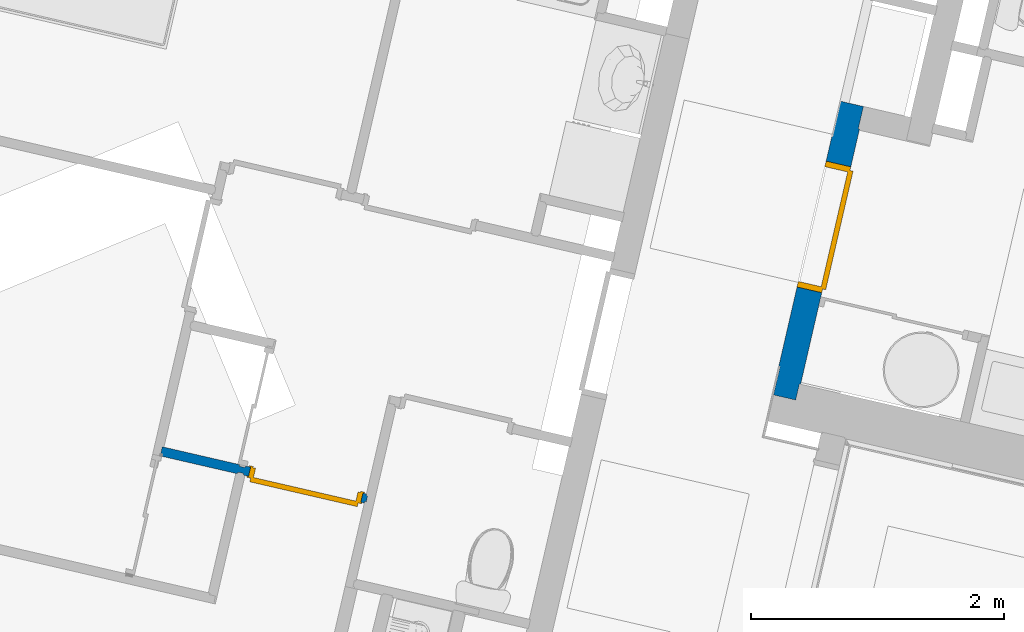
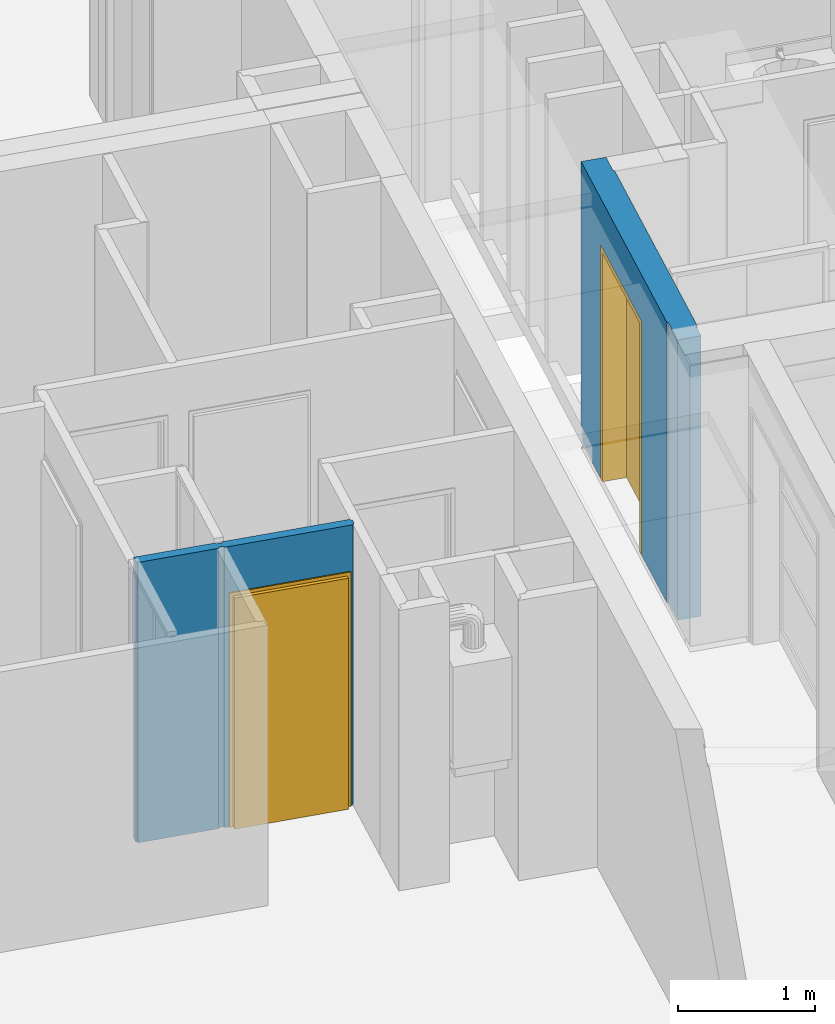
# One storey, part 20 of 119: 2 doors, 2 walls, 2 openings.
"""IFC2X3 building model written with IfcOpenShell, lengths in metres."""

import ifcopenshell
import ifcopenshell.guid

model = None  # the IFC model being written
_history = None  # IfcOwnerHistory: only IFC2X3 demands one
_inside = {}  # id of a spatial element -> (the spatial element, [elements in it])
_under = {}  # id of a project, library or spatial element -> (it, [spatial elements below it])
_declared = {}  # id of a project -> (the project, [libraries it declares])
_typed = {}  # id of a type object -> (the type object, [elements of that type])
_made_of = {}  # id of a material, layer set ... -> (it, [elements and type objects made of it])


def new_model(schema):
    """Start an empty IFC model of exactly this schema.

    Asked for "IFC4X3", IfcOpenShell would pick the latest addendum, in which some entities
    have other attributes; the version numbers below select the first issue.
    IFC2X3 requires an IfcOwnerHistory on every rooted entity: one is made here for all.
    """
    global model, _history
    if schema == "IFC4X3":
        model = ifcopenshell.file(schema_version=(4, 3, 0, 0))
    else:
        model = ifcopenshell.file(schema=schema)
    _inside.clear()
    _under.clear()
    _declared.clear()
    _typed.clear()
    _made_of.clear()
    _history = None
    if model.schema == "IFC2X3":
        org = make("IfcOrganization", Name="unknown")
        user = make(
            "IfcPersonAndOrganization",
            ThePerson=make("IfcPerson", FamilyName="unknown"),
            TheOrganization=org,
        )
        app = make(
            "IfcApplication",
            ApplicationDeveloper=org,
            Version="unknown",
            ApplicationFullName="unknown",
            ApplicationIdentifier="unknown",
        )
        _history = make(
            "IfcOwnerHistory",
            OwningUser=user,
            OwningApplication=app,
            ChangeAction="ADDED",
            CreationDate=0,
        )
    return model


def make(cls, **values):
    """One entity of the class cls with the attributes given. An attribute that is None is left unset."""
    return model.create_entity(
        cls, **{name: value for name, value in values.items() if value is not None}
    )


def entity(cls, *values):
    """Any entity or typed value of the class cls, its attributes in the order of the schema. None: left unset."""
    e = model.create_entity(cls)
    for i, value in enumerate(values):
        if value is not None:
            e[i] = value
    return e


def rooted(cls, **values):
    """An entity with a GlobalId (a new one), such as an element, a storey or a relation."""
    return make(cls, GlobalId=ifcopenshell.guid.new(), OwnerHistory=_history, **values)


def si_unit(unit_type, name, prefix=None):
    """IfcSIUnit, for example si_unit("LENGTHUNIT", "METRE", prefix="MILLI")."""
    return make("IfcSIUnit", UnitType=unit_type, Prefix=prefix, Name=name)


def converted_unit(unit_type, name, factor, base, dimensions=None, offset=None):
    """IfcConversionBasedUnit, such as the inch: factor (a typed value) times the base unit."""
    return make(
        "IfcConversionBasedUnit"
        if offset is None
        else "IfcConversionBasedUnitWithOffset",
        ConversionOffset=offset,
        Dimensions=None
        if dimensions is None
        else entity("IfcDimensionalExponents", *dimensions),
        UnitType=unit_type,
        Name=name,
        ConversionFactor=make(
            "IfcMeasureWithUnit", ValueComponent=factor, UnitComponent=base
        ),
    )


def derived_unit(unit_type, elements):
    """IfcDerivedUnit: a product of units, each with its exponent."""
    return make(
        "IfcDerivedUnit",
        Elements=[
            make("IfcDerivedUnitElement", Unit=unit, Exponent=power)
            for unit, power in elements
        ],
        UnitType=unit_type,
    )


def money_unit(currency):
    """IfcMonetaryUnit."""
    return make("IfcMonetaryUnit", Currency=currency)


def assignment(units):
    """IfcUnitAssignment: the units of a project."""
    return None if units is None else make("IfcUnitAssignment", Units=units)


def point(xyz):
    """IfcCartesianPoint."""
    return None if xyz is None else make("IfcCartesianPoint", Coordinates=xyz)


def direction(xyz):
    """IfcDirection."""
    return None if xyz is None else make("IfcDirection", DirectionRatios=xyz)


def frame(location, z_axis=None, x_axis=None):
    """IfcAxis2Placement3D, a coordinate frame: its origin and axes. An axis left out is left unset."""
    return make(
        "IfcAxis2Placement3D",
        Location=point(location),
        Axis=direction(z_axis),
        RefDirection=direction(x_axis),
    )


def origin_with_axes():
    """The frame at (0, 0, 0) with the z axis (0, 0, 1) and the x axis (1, 0, 0) written out."""
    return frame((0.0, 0.0, 0.0), z_axis=(0.0, 0.0, 1.0), x_axis=(1.0, 0.0, 0.0))


def place(relative_to, where):
    """IfcLocalPlacement: puts the frame where relative to a parent placement (None: the world)."""
    return make(
        "IfcLocalPlacement", PlacementRelTo=relative_to, RelativePlacement=where
    )


def context(
    kind, dimensions, precision=None, world=None, true_north=None, identifier=None
):
    """IfcGeometricRepresentationContext, for example the 3D "Model" context."""
    return make(
        "IfcGeometricRepresentationContext",
        ContextIdentifier=identifier,
        ContextType=kind,
        CoordinateSpaceDimension=dimensions,
        Precision=precision,
        WorldCoordinateSystem=world,
        TrueNorth=true_north,
    )


def subcontext(parent, identifier, kind, view, scale=None):
    """IfcGeometricRepresentationSubContext, for example "Body" below "Model"."""
    return make(
        "IfcGeometricRepresentationSubContext",
        ContextIdentifier=identifier,
        ContextType=kind,
        ParentContext=parent,
        TargetScale=scale,
        TargetView=view,
    )


def project(units=None, contexts=None):
    """IfcProject with its units and contexts."""
    return rooted(
        "IfcProject",
        Name="project",
        RepresentationContexts=contexts,
        UnitsInContext=assignment(units),
    )


def spatial(cls, under=None, at=None, **own):
    """A site, building, storey or space (cls), placed at a placement, below another one or the project."""
    s = rooted(cls, ObjectPlacement=at, **own)
    if under is not None:
        _under.setdefault(under.id(), (under, []))[1].append(s)
    return s


def faces_of(points, faces, orient=None, outer=None):
    """IfcFace entities. A face is a list of loops; a loop is a list of indices into points, from 0.

    orient and outer hold one flag for each loop. By default every Orientation is true, the
    first loop of a face is its IfcFaceOuterBound and the others are IfcFaceBound.
    """
    made = []
    for i, loops in enumerate(faces):
        bounds = []
        for j, loop in enumerate(loops):
            is_outer = j == 0 if outer is None else outer[i][j]
            bounds.append(
                make(
                    "IfcFaceOuterBound" if is_outer else "IfcFaceBound",
                    Bound=make("IfcPolyLoop", Polygon=[points[k] for k in loop]),
                    Orientation=True if orient is None else orient[i][j],
                )
            )
        made.append(make("IfcFace", Bounds=bounds))
    return made


def faceted_brep(points, faces, orient=None, outer=None, voids=None):
    """IfcFacetedBrep: a solid bounded by flat faces; with voids (closed shells), ...WithVoids."""
    shared = [point(p) for p in points]
    hull = make("IfcClosedShell", CfsFaces=faces_of(shared, faces, orient, outer))
    if voids is None:
        return make("IfcFacetedBrep", Outer=hull)
    return make(
        "IfcFacetedBrepWithVoids",
        Outer=hull,
        Voids=[
            make(cls, CfsFaces=faces_of(shared, fs, o, b)) for cls, fs, o, b in voids
        ],
    )


def shape(context_of_items, identifier, shape_type, items):
    """IfcShapeRepresentation: the items that make up one representation, for example the "Body"."""
    return make(
        "IfcShapeRepresentation",
        ContextOfItems=context_of_items,
        RepresentationIdentifier=identifier,
        RepresentationType=shape_type,
        Items=items,
    )


def source(mapping_origin, context_of_items, identifier, shape_type, items):
    """IfcRepresentationMap: a shape defined once, which mapped items show again and again."""
    return make(
        "IfcRepresentationMap",
        MappingOrigin=mapping_origin,
        MappedRepresentation=shape(context_of_items, identifier, shape_type, items),
    )


def transform(
    local_origin,
    x_axis=None,
    y_axis=None,
    z_axis=None,
    scale=None,
    scale2=None,
    scale3=None,
    uniform=True,
):
    """IfcCartesianTransformationOperator3D, or its non-uniform kind. x_axis, y_axis, z_axis: its Axis1, 2, 3."""
    if uniform:
        return make(
            "IfcCartesianTransformationOperator3D",
            Axis1=direction(x_axis),
            Axis2=direction(y_axis),
            LocalOrigin=point(local_origin),
            Scale=scale,
            Axis3=direction(z_axis),
        )
    return make(
        "IfcCartesianTransformationOperator3DnonUniform",
        Axis1=direction(x_axis),
        Axis2=direction(y_axis),
        LocalOrigin=point(local_origin),
        Scale=scale,
        Axis3=direction(z_axis),
        Scale2=scale2,
        Scale3=scale3,
    )


def mapped(mapping_source, mapping_target):
    """IfcMappedItem: shows the shape of a source again, moved by a transform."""
    return make(
        "IfcMappedItem", MappingSource=mapping_source, MappingTarget=mapping_target
    )


def material(Name=None, Category=None):
    """IfcMaterial."""
    return make("IfcMaterial", Name=Name, Category=Category)


def material_list(materials):
    """IfcMaterialList."""
    return make("IfcMaterialList", Materials=materials)


def made_of(thing, what):
    """Note that an element or type object is made of a material, layer set ...; save() writes the relation."""
    if what is not None:
        _made_of.setdefault(what.id(), (what, []))[1].append(thing)
    return thing


def type_object(cls, material=None, **own):
    """A type object (cls), such as IfcWallType, which elements share."""
    return made_of(rooted(cls, **own), material)


def element(
    cls,
    number,
    at=None,
    inside=None,
    cuts=None,
    type_object=None,
    material=None,
    context=None,
    identifier="Body",
    shape_type=None,
    held_by="IfcProductDefinitionShape",
    body=None,
    shapes=None,
    **own,
):
    """One element of the class cls, such as IfcWall. Its Tag is "e" and its number.

    at: its placement. inside: the storey or other place that contains it. cuts: it is an
    opening in that element (IfcRelVoidsElement). A single representation is given by context,
    identifier, shape_type and body (its items); several are given by shapes. held_by: the class
    of the entity that holds the representations. save() writes the other relations.
    """
    e = rooted(cls, Tag="e%d" % number, ObjectPlacement=at, **own)
    if body is not None:
        shapes = [shape(context, identifier, shape_type, body)]
    if shapes is not None:
        e.Representation = make(held_by, Representations=shapes)
    if inside is not None:
        _inside.setdefault(inside.id(), (inside, []))[1].append(e)
    if cuts is not None:
        rooted(
            "IfcRelVoidsElement", RelatingBuildingElement=cuts, RelatedOpeningElement=e
        )
    if type_object is not None:
        _typed.setdefault(type_object.id(), (type_object, []))[1].append(e)
    return made_of(e, material)


def fill(opening, filler):
    """IfcRelFillsElement: the door or window that sits in an opening."""
    return rooted(
        "IfcRelFillsElement",
        RelatingOpeningElement=opening,
        RelatedBuildingElement=filler,
    )


def aggregate(whole, parts):
    """IfcRelAggregates: a whole, such as a stair, and the parts it consists of."""
    return rooted("IfcRelAggregates", RelatingObject=whole, RelatedObjects=parts)


def save(model, path):
    """Write the relations noted so far, then the file.

    IfcRelAggregates (storeys below a building ...), IfcRelContainedInSpatialStructure (elements
    in a storey), IfcRelDefinesByType, IfcRelAssociatesMaterial and IfcRelDeclares: one each for
    every whole, place, type object, material and project.
    """
    for whole, parts in _under.values():
        aggregate(whole, parts)
    for where, things in _inside.values():
        rooted(
            "IfcRelContainedInSpatialStructure",
            RelatedElements=things,
            RelatingStructure=where,
        )
    for kind, things in _typed.values():
        rooted("IfcRelDefinesByType", RelatedObjects=things, RelatingType=kind)
    for what, things in _made_of.values():
        rooted("IfcRelAssociatesMaterial", RelatedObjects=things, RelatingMaterial=what)
    for by, libraries in _declared.values():
        rooted("IfcRelDeclares", RelatingContext=by, RelatedDefinitions=libraries)
    model.write(path)


model = new_model("IFC2X3")

# Units and contexts
model_context = context("Model", 3, precision=1e-05, world=origin_with_axes(), true_north=direction((0.0, 1.0)))
body_context = subcontext(model_context, "Body", "Model", "MODEL_VIEW")
ifc_project = project(units=[si_unit("LENGTHUNIT", "METRE"), si_unit("AREAUNIT", "SQUARE_METRE"), si_unit("VOLUMEUNIT", "CUBIC_METRE"), converted_unit("PLANEANGLEUNIT", "DEGREE", entity("IfcPlaneAngleMeasure", 0.0174532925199), si_unit("PLANEANGLEUNIT", "RADIAN"), dimensions=[0, 0, 0, 0, 0, 0, 0]), si_unit("SOLIDANGLEUNIT", "STERADIAN"), money_unit("EUR"), converted_unit("TIMEUNIT", "Year", entity("IfcTimeMeasure", 31556926.0), si_unit("TIMEUNIT", "SECOND"), dimensions=[0, 0, 1, 0, 0, 0, 0]), si_unit("MASSUNIT", "GRAM", prefix="KILO"), si_unit("THERMODYNAMICTEMPERATUREUNIT", "DEGREE_CELSIUS"), si_unit("LUMINOUSINTENSITYUNIT", "LUMEN"), si_unit("ENERGYUNIT", "JOULE", prefix="MEGA"), derived_unit("THERMALCONDUCTANCEUNIT", [(si_unit("POWERUNIT", "WATT"), 1), (si_unit("LENGTHUNIT", "METRE"), -1), (si_unit("THERMODYNAMICTEMPERATUREUNIT", "KELVIN"), -1)]), derived_unit("SPECIFICHEATCAPACITYUNIT", [(si_unit("ENERGYUNIT", "JOULE"), 1), (si_unit("MASSUNIT", "GRAM", prefix="KILO"), -1), (si_unit("THERMODYNAMICTEMPERATUREUNIT", "KELVIN"), -1)]), derived_unit("MASSDENSITYUNIT", [(si_unit("MASSUNIT", "GRAM", prefix="KILO"), 1), (si_unit("VOLUMEUNIT", "CUBIC_METRE"), -1)])], contexts=[model_context])

# Site, building, storey
site_placement = place(None, origin_with_axes())
site = spatial("IfcSite", under=ifc_project, at=site_placement, Name="Site", CompositionType="ELEMENT")
building_placement = place(site_placement, origin_with_axes())
building = spatial("IfcBuilding", under=site, at=building_placement, Name="Bâtiment", CompositionType="ELEMENT")
storey_placement = place(building_placement, origin_with_axes())
storey = spatial("IfcBuildingStorey", under=building, at=storey_placement, Name="Rez-de-chaussée", CompositionType="ELEMENT", Elevation=0.0)

# Wall, opening, door
ifc_material_1 = material(Name="Finition int - Plaque de plâtre")
ifc_material_2 = material(Name="Isolation - Laine de roche")
ifc_material_list_1 = material_list([ifc_material_1, ifc_material_2, ifc_material_1])
wall_type_1 = type_object("IfcWallType", Name="3 - Cloison 72mm Placostil 74", PredefinedType="USERDEFINED")
wall_1_placement = place(storey_placement, frame((-12.9591073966, -2.29017041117, 0.0), z_axis=(0.0, 0.0, 1.0), x_axis=(-0.974387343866, 0.224876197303, 0.0)))
wall_1 = element("IfcWall", 1, at=wall_1_placement, inside=storey, type_object=wall_type_1, material=ifc_material_list_1, Name="Cloison Placostil 72/48", ObjectType="PARTITIONING", context=body_context, shape_type="Brep", body=[
    faceted_brep([(1.02802042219, -0.013, 2.5), (1.64102042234, -0.013, 2.5), (1.64102042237, 0.0, 2.5), (1.02802042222, 0.0, 2.5), (1.02802042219, -0.013, 0.0), (1.64102042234, -0.013, 0.0), (1.64102042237, 0.0, 0.0), (1.02802042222, 0.0, 0.0)], [[[0, 1, 2, 3]], [[4, 5, 1, 0]], [[6, 2, 1, 5]], [[3, 2, 6, 7]], [[7, 4, 0, 3]], [[7, 6, 5, 4]]]),
    faceted_brep([(0.93851021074, -0.013, 2.08), (0.93851021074, -0.013, 0.0), (0.980020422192, -0.013, 0.0), (0.980020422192, -0.013, 2.5), (4.61890081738e-10, -0.013, 2.5), (4.61890081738e-10, -0.013, 0.0), (0.02851021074, -0.013, 0.0), (0.02851021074, -0.013, 2.08), (0.93851021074, 0.0, 2.08), (0.93851021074, 0.0, 0.0), (0.980020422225, 0.0, 0.0), (0.980020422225, 0.0, 2.5), (4.95568031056e-10, 0.0, 2.5), (4.95568031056e-10, 0.0, 0.0), (0.02851021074, 0.0, 0.0), (0.02851021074, 0.0, 2.08)], [[[0, 1, 2, 3, 4, 5, 6, 7]], [[1, 0, 8, 9]], [[1, 9, 10, 2]], [[3, 2, 10, 11]], [[11, 12, 4, 3]], [[4, 12, 13, 5]], [[14, 6, 5, 13]], [[7, 6, 14, 15]], [[0, 7, 15, 8]], [[15, 14, 13, 12, 11, 10, 9, 8]]]),
    faceted_brep([(0.93851021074, -0.061, 2.08), (0.93851021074, -0.061, 0.0), (1.65402042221, -0.061, 0.0), (1.65402042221, -0.061, 2.5), (-0.0129999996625, -0.061, 2.5), (-0.0129999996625, -0.061, 0.0), (0.02851021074, -0.061, 0.0), (0.02851021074, -0.061, 2.08), (0.93851021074, -0.013, 2.08), (0.93851021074, -0.013, 0.0), (1.65402042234, -0.013, 0.0), (1.65402042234, -0.013, 2.5), (-0.0129999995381, -0.013, 2.5), (-0.0129999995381, -0.013, 0.0), (0.02851021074, -0.013, 0.0), (0.02851021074, -0.013, 2.08)], [[[0, 1, 2, 3, 4, 5, 6, 7]], [[1, 0, 8, 9]], [[1, 9, 10, 2]], [[11, 3, 2, 10]], [[3, 11, 12, 4]], [[5, 4, 12, 13]], [[14, 6, 5, 13]], [[7, 6, 14, 15]], [[0, 7, 15, 8]], [[15, 14, 13, 12, 11, 10, 9, 8]]]),
    faceted_brep([(1.02802042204, -0.074, 0.0), (1.65402042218, -0.074, 0.0), (1.65402042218, -0.074, 2.5), (1.02802042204, -0.074, 2.5), (1.02802042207, -0.061, 0.0), (1.65402042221, -0.061, 0.0), (1.65402042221, -0.061, 2.5), (1.02802042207, -0.061, 2.5)], [[[0, 1, 2, 3]], [[4, 5, 1, 0]], [[5, 6, 2, 1]], [[3, 2, 6, 7]], [[4, 0, 3, 7]], [[7, 6, 5, 4]]]),
    faceted_brep([(0.93851021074, -0.074, 2.08), (0.93851021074, -0.074, 0.0), (0.980020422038, -0.074, 0.0), (0.980020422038, -0.074, 2.5), (3.03858271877e-10, -0.074, 2.5), (3.03858271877e-10, -0.074, 0.0), (0.02851021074, -0.074, 0.0), (0.02851021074, -0.074, 2.08), (0.93851021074, -0.061, 2.08), (0.93851021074, -0.061, 0.0), (0.98002042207, -0.061, 0.0), (0.98002042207, -0.061, 2.5), (3.37536221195e-10, -0.061, 2.5), (3.37536221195e-10, -0.061, 0.0), (0.02851021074, -0.061, 0.0), (0.02851021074, -0.061, 2.08)], [[[0, 1, 2, 3, 4, 5, 6, 7]], [[1, 0, 8, 9]], [[1, 9, 10, 2]], [[3, 2, 10, 11]], [[11, 12, 4, 3]], [[4, 12, 13, 5]], [[14, 6, 5, 13]], [[7, 6, 14, 15]], [[0, 7, 15, 8]], [[15, 14, 13, 12, 11, 10, 9, 8]]]),
])
opening_1_placement = place(wall_1_placement, frame((0.48351021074, 0.0, 0.0), z_axis=(0.0, 0.0, 1.0), x_axis=(1.0, 0.0, 0.0)))
opening_1 = element("IfcOpeningElement", 2, at=opening_1_placement, cuts=wall_1, Name="Porte 83x204 bois alvéolaire", context=body_context, shape_type="Brep", body=[
    faceted_brep([(-0.455, 0.074, 0.0), (0.455, 0.074, 0.0), (0.455, -0.074, 0.0), (-0.455, -0.074, 0.0), (-0.455, 0.074, 2.08), (0.455, 0.074, 2.08), (0.455, -0.074, 2.08), (-0.455, -0.074, 2.08)], [[[0, 1, 2, 3]], [[0, 4, 5, 1]], [[1, 5, 6, 2]], [[3, 2, 6, 7]], [[4, 0, 3, 7]], [[5, 4, 7, 6]]]),
])
door_style_1 = type_object("IfcDoorStyle", Name="Porte int générique 2019", ConstructionType="NOTDEFINED", OperationType="SINGLE_SWING_LEFT", ParameterTakesPrecedence=False, Sizeable=False)
shared_shape_1 = source(origin_with_axes(), body_context, "Body", "Brep", [
    faceted_brep([(-0.455, -0.006, 0.0), (-0.455, -0.006, 2.08), (0.455, -0.006, 2.08), (0.455, -0.006, 0.0), (0.415, -0.006, 0.0), (0.415, -0.006, 2.04), (-0.415, -0.006, 2.04), (-0.415, -0.006, 0.0), (-0.455, -0.08, 0.0), (-0.455, -0.08, 2.08), (0.455, -0.08, 2.08), (0.455, -0.08, 0.0), (0.415, -0.08, 0.0), (0.415, -0.08, 2.04), (-0.415, -0.08, 2.04), (-0.415, -0.08, 0.0)], [[[0, 1, 2, 3, 4, 5, 6, 7]], [[8, 9, 1, 0]], [[9, 10, 2, 1]], [[10, 11, 3, 2]], [[3, 11, 12, 4]], [[5, 4, 12, 13]], [[6, 5, 13, 14]], [[7, 6, 14, 15]], [[0, 7, 15, 8]], [[15, 14, 13, 12, 11, 10, 9, 8]]]),
    faceted_brep([(-0.465, -0.006, 0.0), (-0.465, -0.006, 2.09), (-0.465, 0.004, 2.09), (-0.465, 0.004, 0.0), (-0.435, -0.006, 0.0), (-0.435, -0.006, 2.06), (0.435, -0.006, 2.06), (0.435, -0.006, 0.0), (0.465, -0.006, 0.0), (0.465, -0.006, 2.09), (0.465, 0.004, 2.09), (0.465, 0.004, 0.0), (0.435, 0.004, 0.0), (0.435, 0.004, 2.06), (-0.435, 0.004, 2.06), (-0.435, 0.004, 0.0)], [[[0, 1, 2, 3]], [[4, 5, 6, 7, 8, 9, 1, 0]], [[1, 9, 10, 2]], [[3, 2, 10, 11, 12, 13, 14, 15]], [[0, 3, 15, 4]], [[15, 14, 5, 4]], [[14, 13, 6, 5]], [[13, 12, 7, 6]], [[8, 7, 12, 11]], [[9, 8, 11, 10]]]),
    faceted_brep([(-0.465, -0.09, 0.0), (-0.465, -0.09, 2.09), (-0.465, -0.08, 2.09), (-0.465, -0.08, 0.0), (-0.435, -0.09, 0.0), (-0.435, -0.09, 2.06), (0.435, -0.09, 2.06), (0.435, -0.09, 0.0), (0.465, -0.09, 0.0), (0.465, -0.09, 2.09), (0.465, -0.08, 2.09), (0.465, -0.08, 0.0), (0.435, -0.08, 0.0), (0.435, -0.08, 2.06), (-0.435, -0.08, 2.06), (-0.435, -0.08, 0.0)], [[[0, 1, 2, 3]], [[4, 5, 6, 7, 8, 9, 1, 0]], [[1, 9, 10, 2]], [[3, 2, 10, 11, 12, 13, 14, 15]], [[0, 3, 15, 4]], [[15, 14, 5, 4]], [[14, 13, 6, 5]], [[13, 12, 7, 6]], [[8, 7, 12, 11]], [[9, 8, 11, 10]]]),
    faceted_brep([(-0.435, 0.034, 0.0), (0.435, 0.034, 0.0), (0.435, -0.006, 0.0), (-0.435, -0.006, 0.0), (-0.435, 0.034, 2.06), (0.435, 0.034, 2.06), (0.435, -0.006, 2.06), (-0.435, -0.006, 2.06)], [[[0, 1, 2, 3]], [[0, 4, 5, 1]], [[1, 5, 6, 2]], [[3, 2, 6, 7]], [[4, 0, 3, 7]], [[5, 4, 7, 6]]]),
])
door_1_placement = place(opening_1_placement, frame((-0.415, 0.0, 0.0), z_axis=(0.0, 0.0, 1.0), x_axis=(1.0, 0.0, 0.0)))
door_1 = element("IfcDoor", 3, at=door_1_placement, inside=storey, type_object=door_style_1, Name="Porte 83x204 bois alvéolaire", ObjectType="DOOR", OverallHeight=2.04, OverallWidth=0.83, context=body_context, shape_type="MappedRepresentation", body=[
    mapped(shared_shape_1, transform((0.415, 0.006, 0.0))),
])
fill(opening_1, door_1)

ifc_material_3 = material(Name="Finition int - Enduit plâtre")
ifc_material_4 = material(Name="Béton")
ifc_material_list_2 = material_list([ifc_material_3, ifc_material_4, ifc_material_3])
wall_type_2 = type_object("IfcWallType", Name="2 - Murs Béton 18 + Enduit 2 Faces 200", PredefinedType="USERDEFINED")
wall_2_placement = place(storey_placement, frame((-9.20392746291, 0.883172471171, 0.0), z_axis=(0.0, 0.0, 1.0), x_axis=(-0.2248761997, -0.974387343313, 0.0)))
wall_2 = element("IfcWall", 4, at=wall_2_placement, inside=storey, type_object=wall_type_2, material=ifc_material_list_2, Name="M_Ext-008", ObjectType="SOLIDWALL", context=body_context, shape_type="Brep", body=[
    faceted_brep([(1.50631510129, 0.2, 0.0), (1.50631510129, 0.2, 2.085), (0.486315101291, 0.2, 2.085), (0.486315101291, 0.2, 0.0), (0.179999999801, 0.2, 0.0), (0.179999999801, 0.2, 2.5), (2.2485522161, 0.2, 2.5), (2.2485522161, 0.2, 0.0), (1.50631510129, 0.19, 0.0), (1.50631510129, 0.19, 2.085), (0.486315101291, 0.19, 2.085), (0.486315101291, 0.19, 0.0), (0.179999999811, 0.19, 0.0), (0.179999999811, 0.19, 2.5), (2.2485522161, 0.19, 2.5), (2.2485522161, 0.19, 0.0)], [[[0, 1, 2, 3, 4, 5, 6, 7]], [[1, 0, 8, 9]], [[2, 1, 9, 10]], [[3, 2, 10, 11]], [[3, 11, 12, 4]], [[4, 12, 13, 5]], [[5, 13, 14, 6]], [[7, 6, 14, 15]], [[8, 0, 7, 15]], [[9, 8, 15, 14, 13, 12, 11, 10]]]),
    faceted_brep([(1.50631510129, 0.19, 0.0), (1.50631510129, 0.19, 2.085), (0.486315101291, 0.19, 2.085), (0.486315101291, 0.19, 0.0), (-1.88954407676e-10, 0.19, 0.0), (-1.88953963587e-10, 0.19, 0.150000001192), (-1.88954407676e-10, 0.19, 2.5), (2.3785522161, 0.19, 2.5), (2.3785522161, 0.19, 0.0), (1.50631510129, 0.01, 0.0), (1.50631510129, 0.01, 2.085), (0.486315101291, 0.01, 2.085), (0.486315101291, 0.01, 0.0), (0.0, 0.01, 0.0), (0.0, 0.01, 0.150000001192), (0.0, 0.01, 2.5), (2.37855221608, 0.01, 2.5), (2.37855221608, 0.01, 0.0)], [[[0, 1, 2, 3, 4, 5, 6, 7, 8]], [[1, 0, 9, 10]], [[2, 1, 10, 11]], [[3, 2, 11, 12]], [[3, 12, 13, 4]], [[13, 14, 5, 4]], [[6, 5, 14, 15]], [[7, 6, 15, 16]], [[8, 7, 16, 17]], [[9, 0, 8, 17]], [[10, 9, 17, 16, 15, 14, 13, 12, 11]]]),
    faceted_brep([(1.50631510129, 0.01, 0.0), (1.50631510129, 0.01, 2.085), (0.486315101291, 0.01, 2.085), (0.486315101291, 0.01, 0.0), (0.290000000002, 0.01, 0.0), (0.290000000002, 0.01, 0.15), (0.0, 0.01, 0.15), (0.0, 0.01, 2.5), (2.14855221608, 0.01, 2.5), (2.14855221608, 0.01, 0.0), (1.50631510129, 0.0, 0.0), (1.50631510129, 1.28222765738e-10, 2.085), (0.486315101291, 1.28220989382e-10, 2.085), (0.486315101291, 0.0, 0.0), (0.29, 0.0, 0.0), (0.29, 0.0, 0.15), (0.0, 1.28222765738e-10, 0.15), (0.0, 0.0, 2.5), (2.14855221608, 0.0, 2.5), (2.14855221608, 0.0, 0.0)], [[[0, 1, 2, 3, 4, 5, 6, 7, 8, 9]], [[1, 0, 10, 11]], [[2, 1, 11, 12]], [[3, 2, 12, 13]], [[3, 13, 14, 4]], [[5, 4, 14, 15]], [[16, 6, 5, 15]], [[6, 16, 17, 7]], [[18, 8, 7, 17]], [[9, 8, 18, 19]], [[10, 0, 9, 19]], [[11, 10, 19, 18, 17, 16, 15, 14, 13, 12]]]),
])
opening_2_placement = place(wall_2_placement, frame((0.996315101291, 0.0, 0.0), z_axis=(0.0, 0.0, 1.0), x_axis=(1.0, 0.0, 0.0)))
opening_2 = element("IfcOpeningElement", 5, at=opening_2_placement, cuts=wall_2, Name="Porte 93x204 bois blindée", context=body_context, shape_type="Brep", body=[
    faceted_brep([(0.51, -0.2, 0.0), (-0.51, -0.2, 0.0), (-0.51, 0.2, 0.0), (0.51, 0.2, 0.0), (0.51, -0.2, 2.085), (-0.51, -0.2, 2.085), (-0.51, 0.2, 2.085), (0.51, 0.2, 2.085)], [[[0, 1, 2, 3]], [[0, 4, 5, 1]], [[1, 5, 6, 2]], [[3, 2, 6, 7]], [[4, 0, 3, 7]], [[5, 4, 7, 6]]]),
])
door_style_2 = type_object("IfcDoorStyle", Name="Porte int générique 2019", ConstructionType="NOTDEFINED", OperationType="SINGLE_SWING_RIGHT", ParameterTakesPrecedence=False, Sizeable=False)
shared_shape_2 = source(origin_with_axes(), body_context, "Body", "Brep", [
    faceted_brep([(0.51, 0.0, 0.0), (0.48, 0.0, 0.0), (0.48, 0.0, 2.055), (-0.48, 0.0, 2.055), (-0.48, 0.0, 0.0), (-0.51, 0.0, 0.0), (-0.51, 0.0, 2.085), (0.51, 0.0, 2.085), (0.51, -0.2, 0.0), (0.465, -0.2, 0.0), (0.465, -0.015, 0.0), (0.48, -0.015, 0.0), (0.48, -0.015, 2.055), (-0.48, -0.015, 2.055), (-0.48, -0.015, 0.0), (-0.465, -0.015, 0.0), (-0.465, -0.2, 0.0), (-0.51, -0.2, 0.0), (-0.51, -0.2, 2.085), (0.51, -0.2, 2.085), (-0.465, -0.2, 2.04), (0.465, -0.2, 2.04), (0.465, -0.015, 2.04), (-0.465, -0.015, 2.04)], [[[0, 1, 2, 3, 4, 5, 6, 7]], [[0, 8, 9, 10, 11, 1]], [[1, 11, 12, 2]], [[2, 12, 13, 3]], [[3, 13, 14, 4]], [[5, 4, 14, 15, 16, 17]], [[18, 6, 5, 17]], [[19, 7, 6, 18]], [[8, 0, 7, 19]], [[9, 8, 19, 18, 17, 16, 20, 21]], [[10, 9, 21, 22]], [[11, 10, 22, 23, 15, 14, 13, 12]], [[23, 20, 16, 15]], [[22, 21, 20, 23]]]),
    faceted_brep([(0.48, 0.025, 0.0), (0.48, -0.015, 0.0), (-0.48, -0.015, 0.0), (-0.48, 0.025, 0.0), (0.48, 0.025, 2.055), (0.48, -0.015, 2.055), (-0.48, -0.015, 2.055), (-0.48, 0.025, 2.055)], [[[0, 1, 2, 3]], [[4, 5, 1, 0]], [[1, 5, 6, 2]], [[3, 2, 6, 7]], [[0, 3, 7, 4]], [[7, 6, 5, 4]]]),
])
door_2_placement = place(opening_2_placement, frame((-0.465, 0.0, 0.0), z_axis=(0.0, 0.0, 1.0), x_axis=(1.0, 0.0, 0.0)))
door_2 = element("IfcDoor", 6, at=door_2_placement, inside=storey, type_object=door_style_2, Name="Porte 93x204 bois blindée", ObjectType="DOOR", OverallHeight=2.04, OverallWidth=0.93, context=body_context, shape_type="MappedRepresentation", body=[
    mapped(shared_shape_2, transform((0.465, 0.2, 0.0))),
])
fill(opening_2, door_2)

save(model, "model.ifc")
